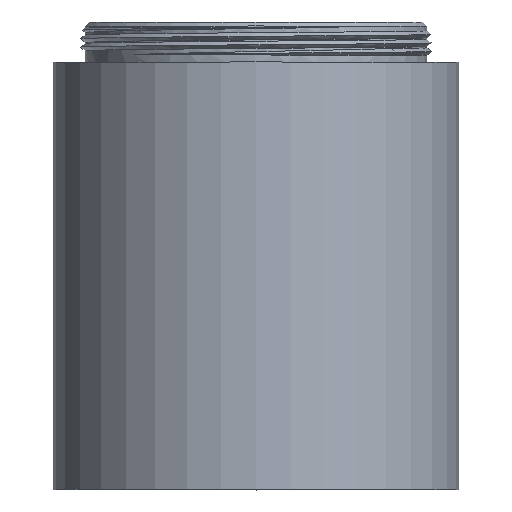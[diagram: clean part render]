
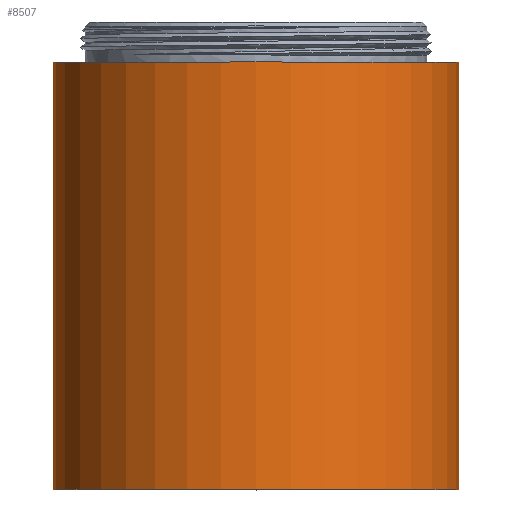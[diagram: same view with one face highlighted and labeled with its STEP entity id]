
A CAD part, top view. The second image highlights one B-rep face of the part: STEP entity #8507.
In plain terms, the highlighted cylindrical face has radius 15.2 mm (diameter 30.4 mm), a partial arc.
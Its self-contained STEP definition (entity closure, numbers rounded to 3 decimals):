
#6=CARTESIAN_POINT('',(0.,0.,0.));
#7=DIRECTION('',(0.,1.,0.));
#8=DIRECTION('',(-1.,0.,0.));
#9=AXIS2_PLACEMENT_3D('',#6,#7,#8);
#58=DIRECTION('',(0.,1.,0.));
#59=VECTOR('',#58,32.);
#60=CARTESIAN_POINT('',(15.2,0.,0.));
#61=LINE('',#60,#59);
#62=DIRECTION('',(0.,1.,0.));
#63=VECTOR('',#62,32.);
#64=CARTESIAN_POINT('',(-15.2,0.,0.));
#65=LINE('',#64,#63);
#71=CARTESIAN_POINT('',(0.,32.,0.));
#72=DIRECTION('',(0.,1.,0.));
#73=DIRECTION('',(-1.,0.,0.));
#74=AXIS2_PLACEMENT_3D('',#71,#72,#73);
#8103=CARTESIAN_POINT('',(15.2,0.,0.));
#8104=CARTESIAN_POINT('',(-15.2,0.,0.));
#8105=VERTEX_POINT('',#8103);
#8106=VERTEX_POINT('',#8104);
#8107=CARTESIAN_POINT('',(15.2,32.,0.));
#8108=CARTESIAN_POINT('',(-15.2,32.,0.));
#8109=VERTEX_POINT('',#8107);
#8110=VERTEX_POINT('',#8108);
#8495=CARTESIAN_POINT('',(0.,0.,0.));
#8496=DIRECTION('',(0.,1.,0.));
#8497=DIRECTION('',(1.,0.,0.));
#8498=AXIS2_PLACEMENT_3D('',#8495,#8496,#8497);
#8499=CYLINDRICAL_SURFACE('',#8498,15.2);
#8500=ORIENTED_EDGE('',*,*,#8467,.F.);
#8501=ORIENTED_EDGE('',*,*,#8490,.T.);
#8503=ORIENTED_EDGE('',*,*,#8502,.T.);
#8504=ORIENTED_EDGE('',*,*,#8486,.F.);
#8505=EDGE_LOOP('',(#8500,#8501,#8503,#8504));
#8506=FACE_OUTER_BOUND('',#8505,.F.);
#8507=ADVANCED_FACE('',(#8506),#8499,.T.);
#10=CIRCLE('',#9,15.2);
#75=CIRCLE('',#74,15.2);
#8467=EDGE_CURVE('',#8106,#8105,#10,.T.);
#8486=EDGE_CURVE('',#8105,#8109,#61,.T.);
#8490=EDGE_CURVE('',#8106,#8110,#65,.T.);
#8502=EDGE_CURVE('',#8110,#8109,#75,.T.);
